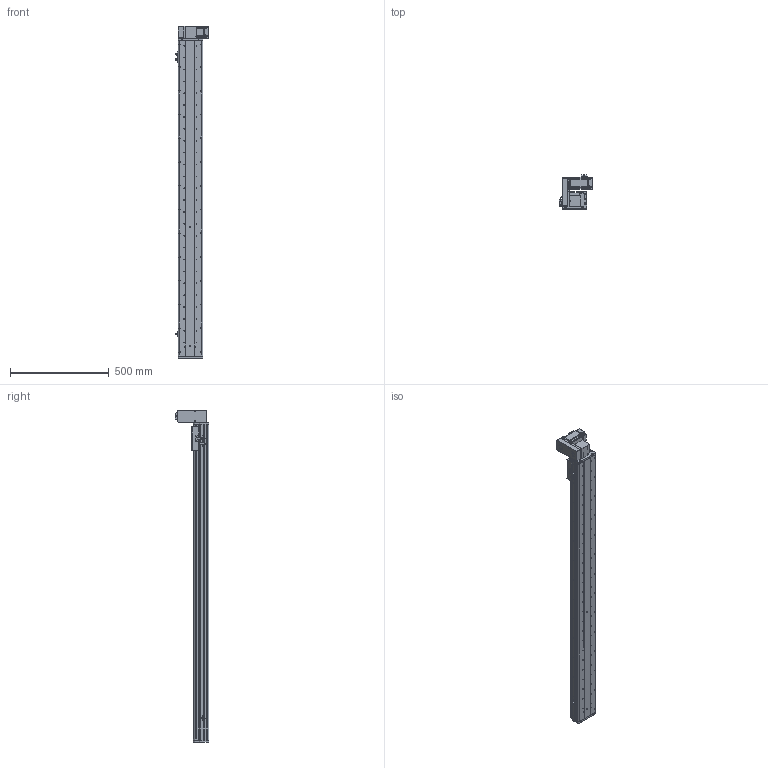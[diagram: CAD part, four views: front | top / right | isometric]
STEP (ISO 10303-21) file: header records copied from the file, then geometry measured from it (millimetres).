
FILE_DESCRIPTION (( 'STEP AP214' ), '1' );
FILE_NAME ('KSD125B-S1400-MRU-CM.STEP', '2017-10-21T07:49:58', ( '微软用户' ), ( '微软中国' ), 'SwSTEP 2.0', 'SolidWorks 2014', '' );
FILE_SCHEMA (( 'AUTOMOTIVE_DESIGN' ));
Length unit declared in the file: millimetre
Products named in the file (17): U倰嫖萇EEㄜSX672; KSD125模组同步带-防撞垫1; 100宽马达安装板同步带右; 前端板-125宽模组同步带; 125模组同步带-尾端板1; KSD125模组同步带-滑动座1; KSD125B-S1400-MRU-CM; 悵誘欶奻狟殏; HTPA30S3M150_A_H6_a佪裝蚚; HTPA30S3M150_A_H6_a萇儂蚚; 100宽马达安装板连板上下折丝杆同步带; KSD125模组1400行程同步带-防尘盖; 125模组1400行程同步带-底板; MHMD042G1CA_2_03; KSD125模组同步带-防撞垫2; 覜茼え68遵圉猾敕; U倰嫖萇假蚾璃
Assembly tree (20 placements, depth 2):
  KSD125B-S1400-MRU-CM
    KSD125模组同步带-滑动座1
    125模组同步带-尾端板1
    前端板-125宽模组同步带
    100宽马达安装板同步带右
    KSD125模组同步带-防撞垫1
    U倰嫖萇EEㄜSX672  x3
    U倰嫖萇假蚾璃  x3
    覜茼え68遵圉猾敕
    KSD125模组同步带-防撞垫2
    MHMD042G1CA_2_03
    125模组1400行程同步带-底板
    KSD125模组1400行程同步带-防尘盖
    100宽马达安装板连板上下折丝杆同步带
    HTPA30S3M150_A_H6_a萇儂蚚
    HTPA30S3M150_A_H6_a佪裝蚚
    悵誘欶奻狟殏
Bounding box: 168.7 x 170.5 x 1677 mm (x, y, z)
Volume: 4991788.5 mm3; surface area: 1658087.1 mm2
Topology: 19 solids, 22 shells, 2379 faces, 6901 edges, 4562 vertices
Faces by surface type: cylinder 1516, plane 736, cone 105, bspline 22
Entity records: 85151 total; most frequent: CARTESIAN_POINT 16767, DIRECTION 13226, ORIENTED_EDGE 12322, EDGE_CURVE 6239, AXIS2_PLACEMENT_3D 5133, VERTEX_POINT 4154, CIRCLE 2972, VECTOR 2960
